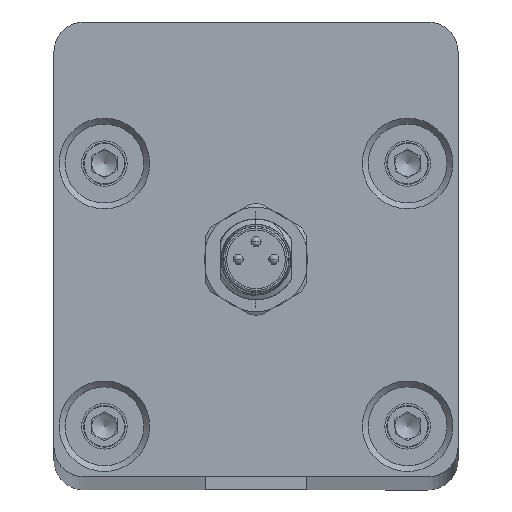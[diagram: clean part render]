
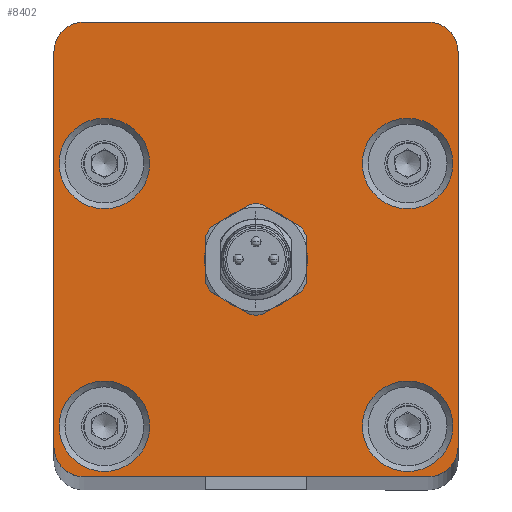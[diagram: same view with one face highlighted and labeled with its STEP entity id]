
A CAD part, top view. The second image highlights one B-rep face of the part: STEP entity #8402.
In plain terms, the highlighted planar face has unit normal (0, 0, 1).
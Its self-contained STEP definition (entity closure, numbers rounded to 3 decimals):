
#6 = VERTEX_POINT ( 'NONE', #3471 ) ;
#42 = LINE ( 'NONE', #8435, #9255 ) ;
#217 = CIRCLE ( 'NONE', #6178, 4.1 ) ;
#249 = DIRECTION ( 'NONE',  ( 1., 0., 0. ) ) ;
#270 = DIRECTION ( 'NONE',  ( 0., 0., 1. ) ) ;
#333 = CARTESIAN_POINT ( 'NONE',  ( -17., 19.5, 3.17 ) ) ;
#400 = LINE ( 'NONE', #7922, #6547 ) ;
#409 = CIRCLE ( 'NONE', #6187, 4.48 ) ;
#453 = DIRECTION ( 'NONE',  ( -1., 0., 0. ) ) ;
#463 = CARTESIAN_POINT ( 'NONE',  ( 19.48, 8.5, 3.17 ) ) ;
#586 = CARTESIAN_POINT ( 'NONE',  ( -20., -19.5, 3.17 ) ) ;
#627 = DIRECTION ( 'NONE',  ( 0., 1., 0. ) ) ;
#636 = EDGE_CURVE ( 'NONE', #5233, #3250, #7057, .T. ) ;
#663 = DIRECTION ( 'NONE',  ( 0., 1., 0. ) ) ;
#679 = DIRECTION ( 'NONE',  ( 0., 0., 1. ) ) ;
#709 = VERTEX_POINT ( 'NONE', #586 ) ;
#747 = DIRECTION ( 'NONE',  ( 0., 0., -1. ) ) ;
#751 = FACE_BOUND ( 'NONE', #5338, .T. ) ;
#817 = EDGE_CURVE ( 'NONE', #3970, #3970, #409, .T. ) ;
#855 = VERTEX_POINT ( 'NONE', #2228 ) ;
#921 = CARTESIAN_POINT ( 'NONE',  ( -17., -19.5, 3.17 ) ) ;
#970 = EDGE_LOOP ( 'NONE', ( #3494, #9694, #4769, #8189 ) ) ;
#1077 = DIRECTION ( 'NONE',  ( 1., 0., 0. ) ) ;
#1099 = ORIENTED_EDGE ( 'NONE', *, *, #7183, .F. ) ;
#1158 = CARTESIAN_POINT ( 'NONE',  ( -17., 19.5, 3.17 ) ) ;
#1174 = CARTESIAN_POINT ( 'NONE',  ( -17., 22.5, 3.17 ) ) ;
#1209 = CARTESIAN_POINT ( 'NONE',  ( 17., -19.5, 3.17 ) ) ;
#1233 = FACE_OUTER_BOUND ( 'NONE', #5206, .T. ) ;
#1251 = CARTESIAN_POINT ( 'NONE',  ( 17., 19.5, 3.17 ) ) ;
#1331 = DIRECTION ( 'NONE',  ( 0., 0., 1. ) ) ;
#1429 = EDGE_CURVE ( 'NONE', #4663, #9598, #5335, .T. ) ;
#1470 = EDGE_CURVE ( 'NONE', #709, #5233, #8858, .T. ) ;
#1489 = VERTEX_POINT ( 'NONE', #6826 ) ;
#1494 = CARTESIAN_POINT ( 'NONE',  ( -20., -19.5, 3.17 ) ) ;
#1497 = VERTEX_POINT ( 'NONE', #3047 ) ;
#1568 = VECTOR ( 'NONE', #663, 1000. ) ;
#1701 = ORIENTED_EDGE ( 'NONE', *, *, #7820, .F. ) ;
#1752 = CARTESIAN_POINT ( 'NONE',  ( 20., 19.5, 3.17 ) ) ;
#1777 = EDGE_CURVE ( 'NONE', #9107, #9107, #9225, .T. ) ;
#1787 = DIRECTION ( 'NONE',  ( 0., -1., 0. ) ) ;
#1856 = CARTESIAN_POINT ( 'NONE',  ( 20., -19.5, 3.17 ) ) ;
#1912 = AXIS2_PLACEMENT_3D ( 'NONE', #9029, #1331, #5148 ) ;
#2228 = CARTESIAN_POINT ( 'NONE',  ( 17., -22.5, 3.17 ) ) ;
#2319 = ORIENTED_EDGE ( 'NONE', *, *, #1777, .F. ) ;
#2409 = EDGE_LOOP ( 'NONE', ( #4880 ) ) ;
#2495 = AXIS2_PLACEMENT_3D ( 'NONE', #2645, #8874, #4204 ) ;
#2511 = ORIENTED_EDGE ( 'NONE', *, *, #7667, .F. ) ;
#2518 = VERTEX_POINT ( 'NONE', #463 ) ;
#2645 = CARTESIAN_POINT ( 'NONE',  ( -15., 8.5, 3.17 ) ) ;
#2660 = DIRECTION ( 'NONE',  ( 0., 0., -1. ) ) ;
#2697 = PLANE ( 'NONE',  #5744 ) ;
#2753 = AXIS2_PLACEMENT_3D ( 'NONE', #333, #7337, #7308 ) ;
#3006 = CARTESIAN_POINT ( 'NONE',  ( 3.66, -2.848, 3.17 ) ) ;
#3040 = CIRCLE ( 'NONE', #1912, 4.48 ) ;
#3047 = CARTESIAN_POINT ( 'NONE',  ( -3.66, -2.848, 3.17 ) ) ;
#3149 = CIRCLE ( 'NONE', #4657, 3. ) ;
#3185 = CARTESIAN_POINT ( 'NONE',  ( -20., 19.5, 3.17 ) ) ;
#3193 = CARTESIAN_POINT ( 'NONE',  ( 0., -1., 3.17 ) ) ;
#3250 = VERTEX_POINT ( 'NONE', #9102 ) ;
#3288 = DIRECTION ( 'NONE',  ( 1., 0., 0. ) ) ;
#3330 = AXIS2_PLACEMENT_3D ( 'NONE', #921, #747, #7877 ) ;
#3348 = CARTESIAN_POINT ( 'NONE',  ( -15., -17.5, 3.17 ) ) ;
#3471 = CARTESIAN_POINT ( 'NONE',  ( -10.52, 8.5, 3.17 ) ) ;
#3494 = ORIENTED_EDGE ( 'NONE', *, *, #1429, .F. ) ;
#3502 = EDGE_CURVE ( 'NONE', #3250, #8418, #7970, .T. ) ;
#3761 = CARTESIAN_POINT ( 'NONE',  ( -17., -22.5, 3.17 ) ) ;
#3795 = DIRECTION ( 'NONE',  ( 1., 0., 0. ) ) ;
#3888 = CIRCLE ( 'NONE', #6126, 3. ) ;
#3970 = VERTEX_POINT ( 'NONE', #5018 ) ;
#4019 = ORIENTED_EDGE ( 'NONE', *, *, #636, .F. ) ;
#4203 = CIRCLE ( 'NONE', #8415, 4.1 ) ;
#4204 = DIRECTION ( 'NONE',  ( 1., 0., 0. ) ) ;
#4228 = ORIENTED_EDGE ( 'NONE', *, *, #9076, .F. ) ;
#4268 = ORIENTED_EDGE ( 'NONE', *, *, #9830, .F. ) ;
#4377 = FACE_BOUND ( 'NONE', #970, .T. ) ;
#4657 = AXIS2_PLACEMENT_3D ( 'NONE', #1209, #7472, #8212 ) ;
#4663 = VERTEX_POINT ( 'NONE', #7186 ) ;
#4681 = EDGE_CURVE ( 'NONE', #9598, #1489, #4203, .T. ) ;
#4769 = ORIENTED_EDGE ( 'NONE', *, *, #5640, .F. ) ;
#4836 = LINE ( 'NONE', #1752, #5548 ) ;
#4880 = ORIENTED_EDGE ( 'NONE', *, *, #817, .F. ) ;
#4972 = EDGE_LOOP ( 'NONE', ( #6144 ) ) ;
#5018 = CARTESIAN_POINT ( 'NONE',  ( 19.48, -17.5, 3.17 ) ) ;
#5095 = ORIENTED_EDGE ( 'NONE', *, *, #1470, .F. ) ;
#5098 = FACE_BOUND ( 'NONE', #7542, .T. ) ;
#5148 = DIRECTION ( 'NONE',  ( 1., 0., 0. ) ) ;
#5206 = EDGE_LOOP ( 'NONE', ( #4019, #5095, #1099, #1701, #4228, #4268, #2511, #9724 ) ) ;
#5233 = VERTEX_POINT ( 'NONE', #3185 ) ;
#5335 = LINE ( 'NONE', #3006, #1568 ) ;
#5338 = EDGE_LOOP ( 'NONE', ( #7446 ) ) ;
#5375 = CARTESIAN_POINT ( 'NONE',  ( 15., -17.5, 3.17 ) ) ;
#5452 = CARTESIAN_POINT ( 'NONE',  ( 3.66, 0.848, 3.17 ) ) ;
#5535 = DIRECTION ( 'NONE',  ( 0., -1., 0. ) ) ;
#5548 = VECTOR ( 'NONE', #1787, 1000. ) ;
#5640 = EDGE_CURVE ( 'NONE', #1489, #1497, #400, .T. ) ;
#5662 = DIRECTION ( 'NONE',  ( 1., 0., 0. ) ) ;
#5744 = AXIS2_PLACEMENT_3D ( 'NONE', #1158, #2660, #453 ) ;
#5810 = VERTEX_POINT ( 'NONE', #1856 ) ;
#5960 = VERTEX_POINT ( 'NONE', #9798 ) ;
#6061 = CIRCLE ( 'NONE', #2495, 4.48 ) ;
#6126 = AXIS2_PLACEMENT_3D ( 'NONE', #1251, #8285, #6628 ) ;
#6144 = ORIENTED_EDGE ( 'NONE', *, *, #8422, .F. ) ;
#6178 = AXIS2_PLACEMENT_3D ( 'NONE', #9902, #9872, #3288 ) ;
#6187 = AXIS2_PLACEMENT_3D ( 'NONE', #5375, #679, #3795 ) ;
#6368 = CIRCLE ( 'NONE', #3330, 3. ) ;
#6406 = FACE_BOUND ( 'NONE', #2409, .T. ) ;
#6422 = DIRECTION ( 'NONE',  ( 0., 0., 1. ) ) ;
#6547 = VECTOR ( 'NONE', #5535, 1000. ) ;
#6628 = DIRECTION ( 'NONE',  ( -1., 0., 0. ) ) ;
#6765 = VECTOR ( 'NONE', #627, 1000. ) ;
#6826 = CARTESIAN_POINT ( 'NONE',  ( -3.66, 0.848, 3.17 ) ) ;
#6868 = DIRECTION ( 'NONE',  ( -1., 0., 0. ) ) ;
#7057 = CIRCLE ( 'NONE', #2753, 3. ) ;
#7147 = FACE_BOUND ( 'NONE', #4972, .T. ) ;
#7163 = EDGE_CURVE ( 'NONE', #1497, #4663, #217, .T. ) ;
#7183 = EDGE_CURVE ( 'NONE', #7831, #709, #6368, .T. ) ;
#7186 = CARTESIAN_POINT ( 'NONE',  ( 3.66, -2.848, 3.17 ) ) ;
#7308 = DIRECTION ( 'NONE',  ( -1., 0., 0. ) ) ;
#7337 = DIRECTION ( 'NONE',  ( 0., 0., -1. ) ) ;
#7446 = ORIENTED_EDGE ( 'NONE', *, *, #7522, .F. ) ;
#7472 = DIRECTION ( 'NONE',  ( 0., 0., -1. ) ) ;
#7497 = VECTOR ( 'NONE', #1077, 1000. ) ;
#7503 = AXIS2_PLACEMENT_3D ( 'NONE', #3348, #270, #5662 ) ;
#7522 = EDGE_CURVE ( 'NONE', #6, #6, #6061, .T. ) ;
#7542 = EDGE_LOOP ( 'NONE', ( #2319 ) ) ;
#7667 = EDGE_CURVE ( 'NONE', #8418, #5960, #3888, .T. ) ;
#7820 = EDGE_CURVE ( 'NONE', #855, #7831, #42, .T. ) ;
#7831 = VERTEX_POINT ( 'NONE', #3761 ) ;
#7877 = DIRECTION ( 'NONE',  ( -1., 0., 0. ) ) ;
#7922 = CARTESIAN_POINT ( 'NONE',  ( -3.66, -2.848, 3.17 ) ) ;
#7970 = LINE ( 'NONE', #1174, #7497 ) ;
#8189 = ORIENTED_EDGE ( 'NONE', *, *, #4681, .F. ) ;
#8212 = DIRECTION ( 'NONE',  ( -1., 0., 0. ) ) ;
#8285 = DIRECTION ( 'NONE',  ( 0., 0., -1. ) ) ;
#8402 = ADVANCED_FACE ( 'NONE', ( #4377, #751, #7147, #5098, #1233, #6406 ), #2697, .F. ) ;
#8415 = AXIS2_PLACEMENT_3D ( 'NONE', #3193, #6422, #249 ) ;
#8418 = VERTEX_POINT ( 'NONE', #8923 ) ;
#8422 = EDGE_CURVE ( 'NONE', #2518, #2518, #3040, .T. ) ;
#8435 = CARTESIAN_POINT ( 'NONE',  ( 17., -22.5, 3.17 ) ) ;
#8858 = LINE ( 'NONE', #1494, #6765 ) ;
#8874 = DIRECTION ( 'NONE',  ( 0., 0., 1. ) ) ;
#8923 = CARTESIAN_POINT ( 'NONE',  ( 17., 22.5, 3.17 ) ) ;
#9029 = CARTESIAN_POINT ( 'NONE',  ( 15., 8.5, 3.17 ) ) ;
#9076 = EDGE_CURVE ( 'NONE', #5810, #855, #3149, .T. ) ;
#9102 = CARTESIAN_POINT ( 'NONE',  ( -17., 22.5, 3.17 ) ) ;
#9107 = VERTEX_POINT ( 'NONE', #9750 ) ;
#9225 = CIRCLE ( 'NONE', #7503, 4.48 ) ;
#9255 = VECTOR ( 'NONE', #6868, 1000. ) ;
#9598 = VERTEX_POINT ( 'NONE', #5452 ) ;
#9694 = ORIENTED_EDGE ( 'NONE', *, *, #7163, .F. ) ;
#9724 = ORIENTED_EDGE ( 'NONE', *, *, #3502, .F. ) ;
#9750 = CARTESIAN_POINT ( 'NONE',  ( -10.52, -17.5, 3.17 ) ) ;
#9798 = CARTESIAN_POINT ( 'NONE',  ( 20., 19.5, 3.17 ) ) ;
#9830 = EDGE_CURVE ( 'NONE', #5960, #5810, #4836, .T. ) ;
#9872 = DIRECTION ( 'NONE',  ( 0., 0., 1. ) ) ;
#9902 = CARTESIAN_POINT ( 'NONE',  ( 0., -1., 3.17 ) ) ;
